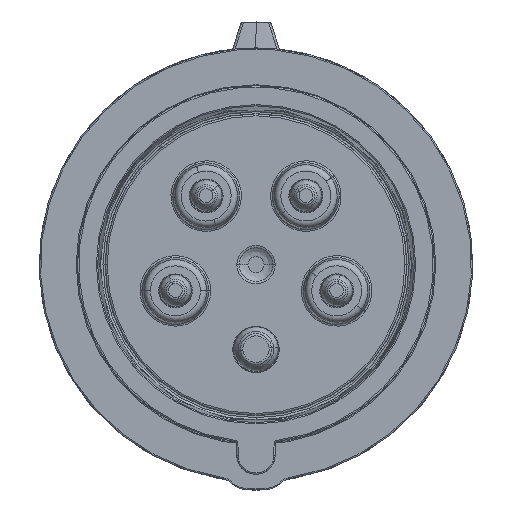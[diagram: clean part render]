
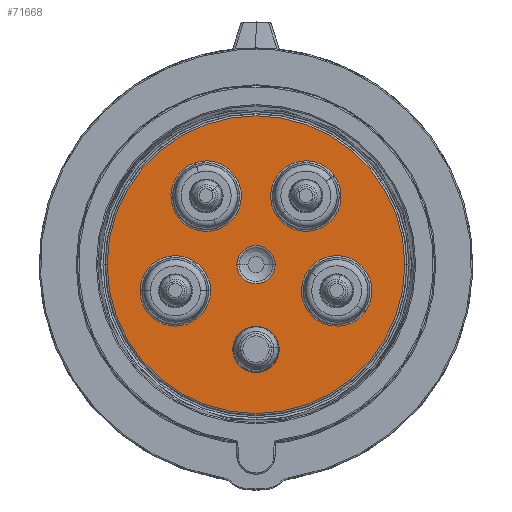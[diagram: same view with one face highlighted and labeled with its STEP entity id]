
A CAD part, top view. The second image highlights one B-rep face of the part: STEP entity #71668.
In plain terms, the highlighted planar face has unit normal (0, 0, 1).
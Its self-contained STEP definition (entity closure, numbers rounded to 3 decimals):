
#21869=CARTESIAN_POINT('',(0.,0.,-36.8));
#21870=DIRECTION('',(0.,0.,-1.));
#21871=DIRECTION('',(-1.,0.,0.));
#21872=AXIS2_PLACEMENT_3D('',#21869,#21870,#21871);
#21877=CARTESIAN_POINT('',(0.,0.,-36.8));
#21878=DIRECTION('',(0.,0.,-1.));
#21879=DIRECTION('',(1.,0.,0.));
#21880=AXIS2_PLACEMENT_3D('',#21877,#21878,#21879);
#21885=CARTESIAN_POINT('',(0.,-13.25,-36.8));
#21886=DIRECTION('',(0.,0.,-1.));
#21887=DIRECTION('',(-1.,0.,0.));
#21888=AXIS2_PLACEMENT_3D('',#21885,#21886,#21887);
#21893=CARTESIAN_POINT('',(0.,-13.25,-36.8));
#21894=DIRECTION('',(0.,0.,-1.));
#21895=DIRECTION('',(1.,0.,0.));
#21896=AXIS2_PLACEMENT_3D('',#21893,#21894,#21895);
#21901=CARTESIAN_POINT('',(0.,0.,-36.8));
#21902=DIRECTION('',(0.,0.,-1.));
#21903=DIRECTION('',(-1.,0.,0.));
#21904=AXIS2_PLACEMENT_3D('',#21901,#21902,#21903);
#21909=CARTESIAN_POINT('',(0.,0.,-36.8));
#21910=DIRECTION('',(0.,0.,-1.));
#21911=DIRECTION('',(1.,0.,0.));
#21912=AXIS2_PLACEMENT_3D('',#21909,#21910,#21911);
#22087=CARTESIAN_POINT('',(-12.601,-4.094,-36.8));
#22088=DIRECTION('',(0.,0.,1.));
#22089=DIRECTION('',(1.,0.,0.));
#22090=AXIS2_PLACEMENT_3D('',#22087,#22088,#22089);
#22111=CARTESIAN_POINT('',(-12.601,-4.094,-36.8));
#22112=DIRECTION('',(0.,0.,1.));
#22113=DIRECTION('',(-1.,0.,0.));
#22114=AXIS2_PLACEMENT_3D('',#22111,#22112,#22113);
#22383=CARTESIAN_POINT('',(-7.788,10.719,-36.8));
#22384=DIRECTION('',(0.,0.,1.));
#22385=DIRECTION('',(0.309,-0.951,0.));
#22386=AXIS2_PLACEMENT_3D('',#22383,#22384,#22385);
#22407=CARTESIAN_POINT('',(-7.788,10.719,-36.8));
#22408=DIRECTION('',(0.,0.,1.));
#22409=DIRECTION('',(-0.309,0.951,0.));
#22410=AXIS2_PLACEMENT_3D('',#22407,#22408,#22409);
#22679=CARTESIAN_POINT('',(7.788,10.719,-36.8));
#22680=DIRECTION('',(0.,0.,1.));
#22681=DIRECTION('',(-0.809,-0.588,0.));
#22682=AXIS2_PLACEMENT_3D('',#22679,#22680,#22681);
#22703=CARTESIAN_POINT('',(7.788,10.719,-36.8));
#22704=DIRECTION('',(0.,0.,1.));
#22705=DIRECTION('',(0.809,0.588,0.));
#22706=AXIS2_PLACEMENT_3D('',#22703,#22704,#22705);
#22975=CARTESIAN_POINT('',(12.601,-4.094,-36.8));
#22976=DIRECTION('',(0.,0.,1.));
#22977=DIRECTION('',(-0.809,0.588,0.));
#22978=AXIS2_PLACEMENT_3D('',#22975,#22976,#22977);
#22999=CARTESIAN_POINT('',(12.601,-4.094,-36.8));
#23000=DIRECTION('',(0.,0.,1.));
#23001=DIRECTION('',(0.809,-0.588,0.));
#23002=AXIS2_PLACEMENT_3D('',#22999,#23000,#23001);
#23608=CARTESIAN_POINT('',(-7.097,-4.094,-36.8));
#23609=CARTESIAN_POINT('',(-18.106,-4.094,-36.8));
#23610=VERTEX_POINT('',#23608);
#23611=VERTEX_POINT('',#23609);
#23640=CARTESIAN_POINT('',(-6.087,5.485,-36.8));
#23641=CARTESIAN_POINT('',(-9.489,15.954,-36.8));
#23642=VERTEX_POINT('',#23640);
#23643=VERTEX_POINT('',#23641);
#23648=CARTESIAN_POINT('',(3.335,7.484,-36.8));
#23649=CARTESIAN_POINT('',(12.241,13.955,-36.8));
#23650=VERTEX_POINT('',#23648);
#23651=VERTEX_POINT('',#23649);
#23656=CARTESIAN_POINT('',(8.149,-0.859,-36.8));
#23657=CARTESIAN_POINT('',(17.054,-7.33,-36.8));
#23658=VERTEX_POINT('',#23656);
#23659=VERTEX_POINT('',#23657);
#23664=CARTESIAN_POINT('',(-3.623,-13.25,-36.8));
#23665=CARTESIAN_POINT('',(3.623,-13.25,-36.8));
#23666=VERTEX_POINT('',#23664);
#23667=VERTEX_POINT('',#23665);
#23684=CARTESIAN_POINT('',(-2.985,0.,-36.8));
#23685=CARTESIAN_POINT('',(2.985,0.,-36.8));
#23686=VERTEX_POINT('',#23684);
#23687=VERTEX_POINT('',#23685);
#23700=CARTESIAN_POINT('',(-23.262,0.,-36.8));
#23701=CARTESIAN_POINT('',(23.262,0.,-36.8));
#23702=VERTEX_POINT('',#23700);
#23703=VERTEX_POINT('',#23701);
#71623=CARTESIAN_POINT('',(0.,0.,-36.8));
#71624=DIRECTION('',(0.,0.,1.));
#71625=DIRECTION('',(1.,0.,0.));
#71626=AXIS2_PLACEMENT_3D('',#71623,#71624,#71625);
#71627=PLANE('162',#71626);
#71628=ORIENTED_EDGE('1426',*,*,#71610,.T.);
#71629=ORIENTED_EDGE('1428',*,*,#71589,.T.);
#71630=EDGE_LOOP('162',(#71628,#71629));
#71631=FACE_OUTER_BOUND('162',#71630,.F.);
#71633=ORIENTED_EDGE('1405',*,*,#71632,.F.);
#71635=ORIENTED_EDGE('1406',*,*,#71634,.F.);
#71636=EDGE_LOOP('162',(#71633,#71635));
#71637=FACE_BOUND('162',#71636,.F.);
#71639=ORIENTED_EDGE('1355',*,*,#71638,.T.);
#71641=ORIENTED_EDGE('1357',*,*,#71640,.T.);
#71642=EDGE_LOOP('162',(#71639,#71641));
#71643=FACE_BOUND('162',#71642,.F.);
#71645=ORIENTED_EDGE('1381',*,*,#71644,.T.);
#71647=ORIENTED_EDGE('1383',*,*,#71646,.T.);
#71648=EDGE_LOOP('162',(#71645,#71647));
#71649=FACE_BOUND('162',#71648,.F.);
#71651=ORIENTED_EDGE('1385',*,*,#71650,.T.);
#71653=ORIENTED_EDGE('1387',*,*,#71652,.T.);
#71654=EDGE_LOOP('162',(#71651,#71653));
#71655=FACE_BOUND('162',#71654,.F.);
#71657=ORIENTED_EDGE('1389',*,*,#71656,.T.);
#71659=ORIENTED_EDGE('1391',*,*,#71658,.T.);
#71660=EDGE_LOOP('162',(#71657,#71659));
#71661=FACE_BOUND('162',#71660,.F.);
#71663=ORIENTED_EDGE('1415',*,*,#71662,.F.);
#71665=ORIENTED_EDGE('1417',*,*,#71664,.F.);
#71666=EDGE_LOOP('162',(#71663,#71665));
#71667=FACE_BOUND('162',#71666,.F.);
#21873=CIRCLE('1426',#21872,23.262);
#21881=CIRCLE('1428',#21880,23.262);
#21889=CIRCLE('1405',#21888,3.623);
#21897=CIRCLE('1406',#21896,3.623);
#21905=CIRCLE('1415',#21904,2.985);
#21913=CIRCLE('1417',#21912,2.985);
#22091=CIRCLE('1355',#22090,5.504);
#22115=CIRCLE('1357',#22114,5.504);
#22387=CIRCLE('1381',#22386,5.504);
#22411=CIRCLE('1383',#22410,5.504);
#22683=CIRCLE('1385',#22682,5.504);
#22707=CIRCLE('1387',#22706,5.504);
#22979=CIRCLE('1389',#22978,5.504);
#23003=CIRCLE('1391',#23002,5.504);
#71589=EDGE_CURVE('1428',#23703,#23702,#21881,.T.);
#71610=EDGE_CURVE('1426',#23702,#23703,#21873,.T.);
#71632=EDGE_CURVE('1405',#23666,#23667,#21889,.T.);
#71634=EDGE_CURVE('1406',#23667,#23666,#21897,.T.);
#71638=EDGE_CURVE('1355',#23610,#23611,#22091,.T.);
#71640=EDGE_CURVE('1357',#23611,#23610,#22115,.T.);
#71644=EDGE_CURVE('1381',#23642,#23643,#22387,.T.);
#71646=EDGE_CURVE('1383',#23643,#23642,#22411,.T.);
#71650=EDGE_CURVE('1385',#23650,#23651,#22683,.T.);
#71652=EDGE_CURVE('1387',#23651,#23650,#22707,.T.);
#71656=EDGE_CURVE('1389',#23658,#23659,#22979,.T.);
#71658=EDGE_CURVE('1391',#23659,#23658,#23003,.T.);
#71662=EDGE_CURVE('1415',#23686,#23687,#21905,.T.);
#71664=EDGE_CURVE('1417',#23687,#23686,#21913,.T.);
#71668=ADVANCED_FACE('162',(#71631,#71637,#71643,#71649,#71655,#71661,#71667),
#71627,.T.);
